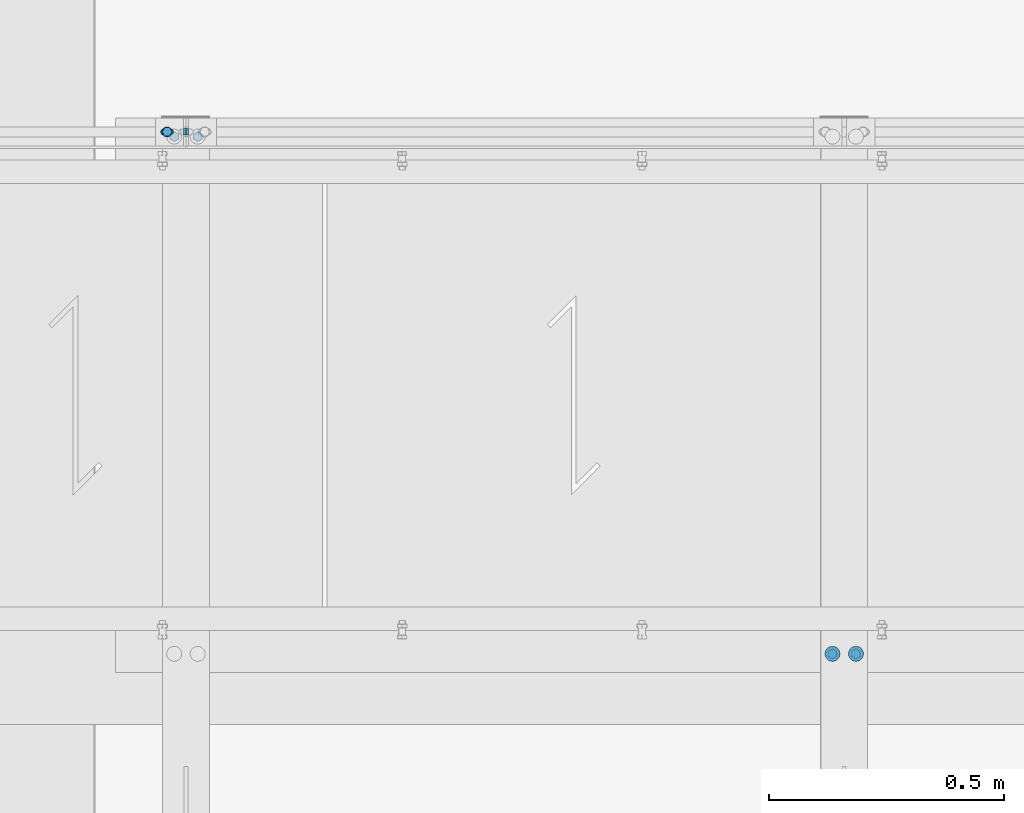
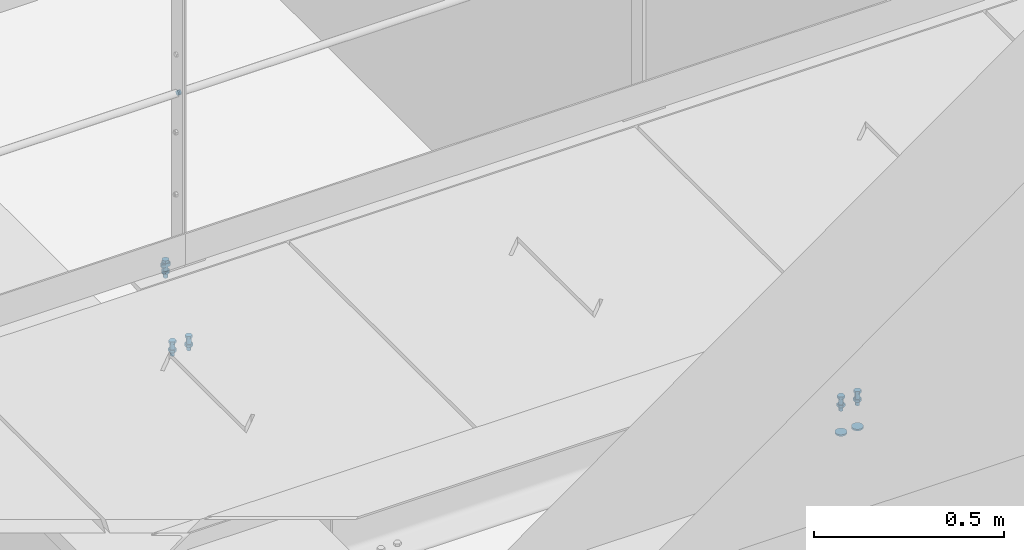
# One storey, part 300 of 362: 6 mechanical fasteners.
"""IFC2X3 building model written with IfcOpenShell, lengths in millimetres."""

from ifc_helpers import new_model, si_unit, frame, frame_2d, origin_with_axes, origin_2d_with_axis, place, context, subcontext, project, spatial, polyline, circle_curve, parameter, trimmed, segment, composite_curve, circle, outline, extrude, source, transform, mapped, material, type_object, element, save


model = new_model("IFC2X3")

# Units and contexts
model_context = context("Model", 3, precision=1e-05, world=origin_with_axes())
body_context = subcontext(model_context, "Body", "Model", "MODEL_VIEW")
ifc_project = project(units=[si_unit("LENGTHUNIT", "METRE", prefix="MILLI"), si_unit("AREAUNIT", "SQUARE_METRE"), si_unit("VOLUMEUNIT", "CUBIC_METRE"), si_unit("MASSUNIT", "GRAM", prefix="KILO"), si_unit("TIMEUNIT", "SECOND"), si_unit("PLANEANGLEUNIT", "RADIAN"), si_unit("SOLIDANGLEUNIT", "STERADIAN"), si_unit("THERMODYNAMICTEMPERATUREUNIT", "DEGREE_CELSIUS"), si_unit("LUMINOUSINTENSITYUNIT", "LUMEN")], contexts=[model_context])

# Site, building, storey
site_placement = place(None, origin_with_axes())
site = spatial("IfcSite", under=ifc_project, at=site_placement, Name="Undefined", CompositionType="ELEMENT")
building_placement = place(site_placement, origin_with_axes())
building = spatial("IfcBuilding", under=site, at=building_placement, Name="Undefined", CompositionType="ELEMENT")
storey_placement = place(building_placement, origin_with_axes())
storey = spatial("IfcBuildingStorey", under=building, at=storey_placement, Name="Undefined", CompositionType="ELEMENT", Elevation=0.0)

# Mechanical fasteners
ifc_material_1 = material(Name="6.8")
mechanical_fastener_type = type_object("IfcMechanicalFastenerType", Name="Bolt assembly")
shared_shape_1 = source(origin_with_axes(), body_context, "Body", "SweptSolid", [
    extrude(circle(Radius=16.0, at=origin_2d_with_axis()), frame((0.0, 0.0, 0.0), z_axis=(0.0, 1.0, 0.0), x_axis=(1.0, 0.0, 0.0)), (0.0, 0.0, 1.0), 5.1),
])
mechanical_fastener_1_placement = place(storey_placement, frame((16254.9999902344, 15979.9857255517, 8340.0), z_axis=(1.0, 0.0, 0.0), x_axis=(0.0, 1.0, 0.0)))
element("IfcMechanicalFastener", 1, at=mechanical_fastener_1_placement, inside=storey, type_object=mechanical_fastener_type, material=ifc_material_1, Name="Bolt assembly", NominalDiameter=30.0, NominalLength=5.0, context=body_context, shape_type="MappedRepresentation", body=[
    mapped(shared_shape_1, transform((0.0, 0.0, -25.0))),
    mapped(shared_shape_1, transform((0.0, 0.0, 25.0))),
])
ifc_material_2 = material(Name="8.8-SB-GALVA")
shared_shape_2 = source(origin_with_axes(), body_context, "Body", "SweptSolid", [
    extrude(circle(Radius=7.0, at=origin_2d_with_axis()), frame((0.0, -13.5001910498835, 0.0), z_axis=(0.0, 1.0, 0.0), x_axis=(1.0, 0.0, 0.0)), (0.0, 0.0, 1.0), 13.6),
    extrude(circle(Radius=7.0, at=origin_2d_with_axis()), frame((0.0, -0.100011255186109, 0.0), z_axis=(0.0, 1.0, 0.0), x_axis=(1.0, 0.0, 0.0)), (0.0, 0.0, 1.0), 5.1),
    extrude(outline(polyline([(10.39230484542, 0.0), (5.19615242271, 9.00000000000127), (-5.19615242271, 9.00000000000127), (-10.39230484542, 0.0), (-5.19615242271, -9.00000000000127), (5.19615242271, -9.00000000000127), (10.39230484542, 0.0)])), frame((0.0, -21.5201910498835, 0.0), z_axis=(0.0, 1.0, 0.0), x_axis=(1.0, 0.0, 0.0)), (0.0, 0.0, 1.0), 7.92),
    extrude(circle(Radius=6.0, at=origin_2d_with_axis()), frame((0.0, -13.6001910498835, 0.0), z_axis=(0.0, 1.0, 0.0), x_axis=(1.0, 0.0, 0.0)), (0.0, 0.0, 1.0), 40.0),
    extrude(outline(polyline([(11.5008173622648, 0.0), (5.7504086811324, 9.96000000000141), (-5.7504086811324, 9.96000000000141), (-11.5008173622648, 0.0), (-5.7504086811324, -9.96000000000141), (5.7504086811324, -9.96000000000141), (11.5008173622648, 0.0)])), frame((0.0, 5.0, 0.0), z_axis=(0.0, 1.0, 0.0), x_axis=(1.0, 0.0, 0.0)), (0.0, 0.0, 1.0), 7.92),
])
mechanical_fastener_2_placement = place(storey_placement, frame((16255.0007602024, 15979.9998774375, 8440.0), z_axis=(-1.0, 0.0, 0.0), x_axis=(0.0, 1.0, 0.0)))
element("IfcMechanicalFastener", 2, at=mechanical_fastener_2_placement, inside=storey, type_object=mechanical_fastener_type, material=ifc_material_2, Name="Bolt assembly", NominalDiameter=12.0, NominalLength=40.0, context=body_context, shape_type="MappedRepresentation", body=[
    mapped(shared_shape_2, transform((0.0, 0.0, -25.0))),
    mapped(shared_shape_2, transform((0.0, 0.0, 25.0))),
])
shared_shape_3 = source(origin_with_axes(), body_context, "Body", "SweptSolid", [
    extrude(circle(Radius=7.0, at=origin_2d_with_axis()), frame((0.0, -2.5, 0.0), z_axis=(0.0, 1.0, 0.0), x_axis=(1.0, 0.0, 0.0)), (0.0, 0.0, 1.0), 5.1),
])
for number, where, z_axis, x_axis, name in (
    (3, (14857.4961849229, 17089.9938659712, 9243.80000001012), (0.0, 0.0, 1.0), (0.0, -1.0, 0.0), "Bolt assembly"),
    (4, (14852.4961849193, 17089.9938659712, 9243.80000001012), (0.0, 0.0, -1.0), (0.0, -1.0, 0.0), "Bolt assembly"),
):
    element("IfcMechanicalFastener", number, at=place(storey_placement, frame(where, z_axis=z_axis, x_axis=x_axis)), inside=storey, type_object=mechanical_fastener_type, material=ifc_material_1, Name=name, NominalDiameter=12.0, NominalLength=5.0, context=body_context, shape_type="MappedRepresentation", body=[
        mapped(shared_shape_3, transform((0.0, 0.0, 0.0))),
    ])
shared_shape_4 = source(origin_with_axes(), body_context, "Body", "SweptSolid", [
    extrude(circle(Radius=7.0, at=origin_2d_with_axis()), frame((0.0, -0.100011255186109, 0.0), z_axis=(0.0, 1.0, 0.0), x_axis=(1.0, 0.0, 0.0)), (0.0, 0.0, 1.0), 12.9),
    extrude(outline(composite_curve([segment(polyline([(-7.0, 7.0), (7.0, 7.0)]), True, "CONTINUOUS"), segment(trimmed(circle_curve(frame_2d((7.0, 0.0), x_axis=(0.0, 1.0)), 7.0), [parameter(0.0)], [parameter(3.14159265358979)], False, "PARAMETER"), True, "CONTINUOUS"), segment(polyline([(7.0, -7.0), (-7.0, -7.0)]), True, "CONTINUOUS"), segment(trimmed(circle_curve(frame_2d((-7.0, 0.0), x_axis=(0.0, -1.0)), 7.0), [parameter(0.0)], [parameter(3.14159265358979)], False, "PARAMETER"), True, "DISCONTINUOUS")], self_intersect=False)), frame((0.0, -9.9, 0.0), z_axis=(0.0, 1.0, 0.0), x_axis=(1.0, 0.0, 0.0)), (0.0, 0.0, 1.0), 10.0),
    extrude(outline(polyline([(10.39230484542, 0.0), (5.19615242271, 9.00000000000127), (-5.19615242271, 9.00000000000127), (-10.39230484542, 0.0), (-5.19615242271, -9.00000000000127), (5.19615242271, -9.00000000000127), (10.39230484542, 0.0)])), frame((0.0, -21.88, 0.0), z_axis=(0.0, 1.0, 0.0), x_axis=(1.0, 0.0, 0.0)), (0.0, 0.0, 1.0), 7.92),
    extrude(circle(Radius=6.0, at=origin_2d_with_axis()), frame((0.0, -13.96, 0.0), z_axis=(0.0, 1.0, 0.0), x_axis=(1.0, 0.0, 0.0)), (0.0, 0.0, 1.0), 50.0),
    extrude(circle(Radius=10.8, at=origin_2d_with_axis()), frame((0.0, -13.96, 0.0), z_axis=(0.0, 1.0, 0.0), x_axis=(1.0, 0.0, 0.0)), (0.0, 0.0, 1.0), 3.96),
    extrude(outline(polyline([(11.5008173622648, 0.0), (5.7504086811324, 9.96000000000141), (-5.7504086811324, 9.96000000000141), (-11.5008173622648, 0.0), (-5.7504086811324, -9.96000000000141), (5.7504086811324, -9.96000000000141), (11.5008173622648, 0.0)])), frame((0.0, 12.7999834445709, 0.0), z_axis=(0.0, 1.0, 0.0), x_axis=(1.0, 0.0, 0.0)), (0.0, 0.0, 1.0), 7.92),
])
mechanical_fastener_3_placement = place(storey_placement, frame((14815.0023796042, 17089.9938659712, 8700.00000001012), z_axis=(0.0, 1.0, 0.0), x_axis=(1.0, 0.0, 0.0)))
element("IfcMechanicalFastener", 5, at=mechanical_fastener_3_placement, inside=storey, type_object=mechanical_fastener_type, material=ifc_material_2, Name="Bolt assembly", NominalDiameter=12.0, NominalLength=50.0, context=body_context, shape_type="MappedRepresentation", body=[
    mapped(shared_shape_4, transform((0.0, 0.0, 0.0))),
])
shared_shape_5 = source(origin_with_axes(), body_context, "Body", "SweptSolid", [
    extrude(circle(Radius=7.0, at=origin_2d_with_axis()), frame((0.0, -13.5000574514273, 0.0), z_axis=(0.0, 1.0, 0.0), x_axis=(1.0, 0.0, 0.0)), (0.0, 0.0, 1.0), 13.6),
    extrude(circle(Radius=7.0, at=origin_2d_with_axis()), frame((0.0, -0.100011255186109, 0.0), z_axis=(0.0, 1.0, 0.0), x_axis=(1.0, 0.0, 0.0)), (0.0, 0.0, 1.0), 5.1),
    extrude(outline(polyline([(10.39230484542, 0.0), (5.19615242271, 9.00000000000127), (-5.19615242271, 9.00000000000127), (-10.39230484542, 0.0), (-5.19615242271, -9.00000000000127), (5.19615242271, -9.00000000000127), (10.39230484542, 0.0)])), frame((0.0, -21.5200574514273, 0.0), z_axis=(0.0, 1.0, 0.0), x_axis=(1.0, 0.0, 0.0)), (0.0, 0.0, 1.0), 7.92),
    extrude(circle(Radius=6.0, at=origin_2d_with_axis()), frame((0.0, -13.6000574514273, 0.0), z_axis=(0.0, 1.0, 0.0), x_axis=(1.0, 0.0, 0.0)), (0.0, 0.0, 1.0), 40.0),
    extrude(outline(polyline([(11.5008173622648, 0.0), (5.7504086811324, 9.96000000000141), (-5.7504086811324, 9.96000000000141), (-11.5008173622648, 0.0), (-5.7504086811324, -9.96000000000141), (5.7504086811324, -9.96000000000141), (11.5008173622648, 0.0)])), frame((0.0, 5.0, 0.0), z_axis=(0.0, 1.0, 0.0), x_axis=(1.0, 0.0, 0.0)), (0.0, 0.0, 1.0), 7.92),
])
mechanical_fastener_4_placement = place(storey_placement, frame((14855.0007605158, 17079.9934272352, 8440.0), z_axis=(1.0, 0.0, 0.0), x_axis=(0.0, -1.0, 0.0)))
element("IfcMechanicalFastener", 6, at=mechanical_fastener_4_placement, inside=storey, type_object=mechanical_fastener_type, material=ifc_material_2, Name="Bolt assembly", NominalDiameter=12.0, NominalLength=40.0, context=body_context, shape_type="MappedRepresentation", body=[
    mapped(shared_shape_5, transform((0.0, 0.0, -25.0))),
    mapped(shared_shape_5, transform((0.0, 0.0, 25.0))),
])

save(model, "model.ifc")
